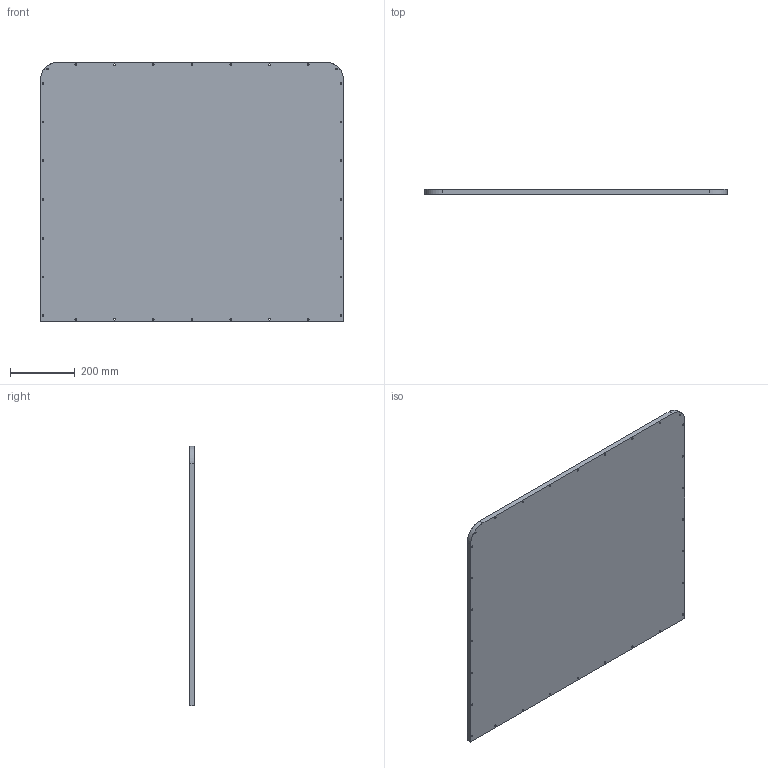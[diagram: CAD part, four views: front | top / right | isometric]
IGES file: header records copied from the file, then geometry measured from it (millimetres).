
Global section: file name: inferior.igs; native system: NX V2312; preprocessor: SIEMENS PLM Software NX2312.5001; date: 20240809.191013; units: millimetre
Bounding box: 938 x 15 x 804 mm (x, y, z)
Surface area: 1563256.8 mm2 (no closed solid volume)
Topology: 0 solids, 0 shells, 38 faces, 708 edges, 708 vertices
Faces by surface type: bspline 38
